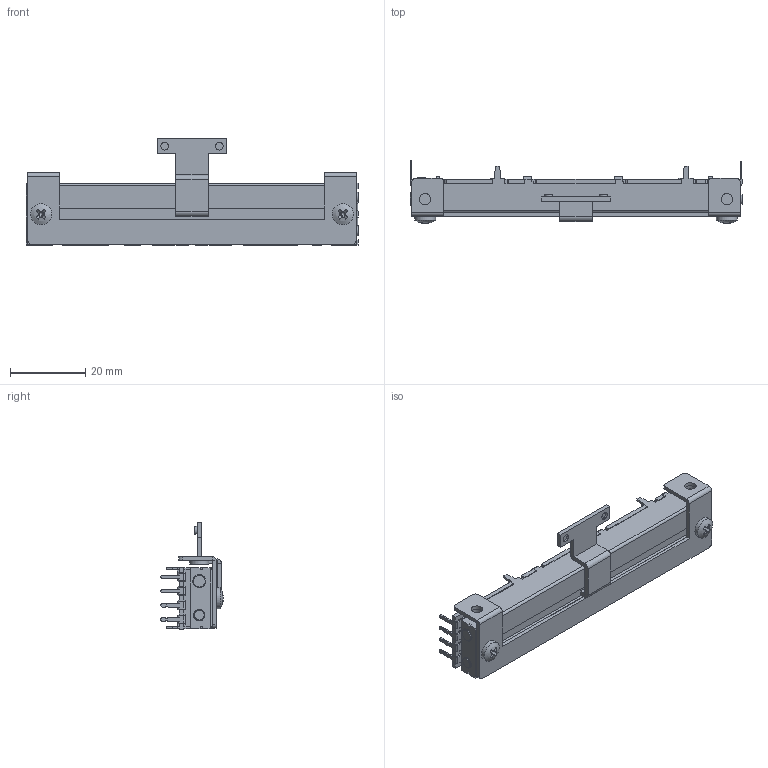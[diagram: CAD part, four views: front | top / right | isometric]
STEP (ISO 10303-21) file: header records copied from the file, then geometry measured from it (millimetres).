
FILE_DESCRIPTION(('FreeCAD Model'),'2;1');
FILE_NAME('Open CASCADE Shape Model','2023-03-16T15:15:05',(''),(''), 'Open CASCADE STEP processor 7.6','FreeCAD','Unknown');
FILE_SCHEMA(('AUTOMOTIVE_DESIGN { 1 0 10303 214 1 1 1 1 }'));
Length unit declared in the file: millimetre
Products named in the file (1): Fusion015
Bounding box: 88 x 16.55 x 28.25 mm (x, y, z)
Volume: 13338.6 mm3; surface area: 7176.4 mm2
Topology: 2 solids, 10 shells, 708 faces, 1862 edges, 1192 vertices
Faces by surface type: plane 502, cylinder 180, cone 18, torus 6, sphere 2
Full cylindrical faces by diameter (mm): 0.5 x18, 1.5 x6, 1.7 x8, 2 x4, 2.5 x2, 3 x11, 3.2 x2, 3.5 x1, 5 x2, 5.6 x2
Entity records: 48652 total; most frequent: CARTESIAN_POINT 10221, DIRECTION 6059, ORIENTED_EDGE 3720, PCURVE 3720, DEFINITIONAL_REPRESENTATION 3720, LINE 3434, VECTOR 3434, EDGE_CURVE 1860
